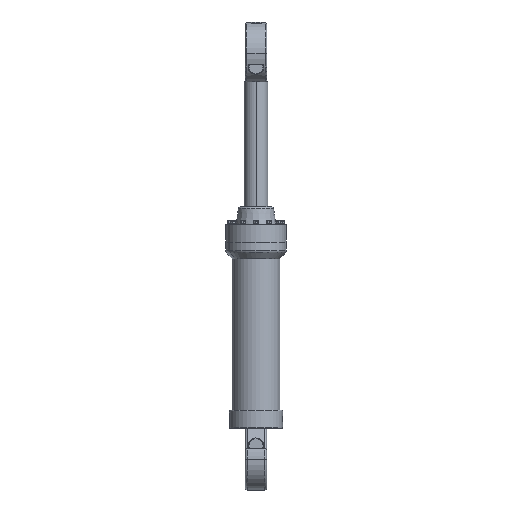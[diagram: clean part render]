
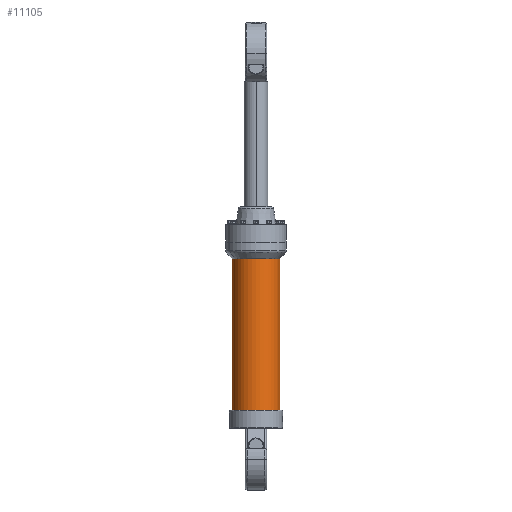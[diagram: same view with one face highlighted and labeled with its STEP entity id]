
A CAD part, front view. The second image highlights one B-rep face of the part: STEP entity #11105.
In plain terms, the highlighted cylindrical face has radius 57.15 mm (diameter 114.3 mm), a partial arc.
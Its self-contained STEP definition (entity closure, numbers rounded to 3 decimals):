
#431 = VERTEX_POINT ( 'NONE', #25546 ) ;
#1281 = VECTOR ( 'NONE', #14455, 1000. ) ;
#1566 = EDGE_CURVE ( 'NONE', #6004, #18419, #13920, .T. ) ;
#1853 = ORIENTED_EDGE ( 'NONE', *, *, #1566, .T. ) ;
#2064 = ORIENTED_EDGE ( 'NONE', *, *, #27237, .F. ) ;
#4842 = CARTESIAN_POINT ( 'NONE',  ( 0., 0., 362.5 ) ) ;
#5147 = CARTESIAN_POINT ( 'NONE',  ( 57.15, 0., 0. ) ) ;
#6004 = VERTEX_POINT ( 'NONE', #15127 ) ;
#6967 = FACE_OUTER_BOUND ( 'NONE', #21840, .T. ) ;
#7486 = EDGE_CURVE ( 'NONE', #431, #6004, #14069, .T. ) ;
#7672 = CARTESIAN_POINT ( 'NONE',  ( -57.15, 0., 362.5 ) ) ;
#7721 = CARTESIAN_POINT ( 'NONE',  ( 57.15, 0., 362.5 ) ) ;
#10447 = CARTESIAN_POINT ( 'NONE',  ( 57.15, 0., 362.5 ) ) ;
#10511 = CARTESIAN_POINT ( 'NONE',  ( 0., 0., 0. ) ) ;
#11105 = ADVANCED_FACE ( 'NONE', ( #6967 ), #15634, .T. ) ;
#11610 = AXIS2_PLACEMENT_3D ( 'NONE', #4842, #24600, #13504 ) ;
#11998 = CIRCLE ( 'NONE', #24698, 57.15 ) ;
#12073 = DIRECTION ( 'NONE',  ( 0., 0., -1. ) ) ;
#13038 = EDGE_CURVE ( 'NONE', #431, #22944, #11998, .T. ) ;
#13087 = ORIENTED_EDGE ( 'NONE', *, *, #13038, .F. ) ;
#13299 = DIRECTION ( 'NONE',  ( 1., 0., 0. ) ) ;
#13504 = DIRECTION ( 'NONE',  ( -1., 0., 0. ) ) ;
#13920 = CIRCLE ( 'NONE', #20709, 57.15 ) ;
#13990 = DIRECTION ( 'NONE',  ( 1., 0., 0. ) ) ;
#14069 = LINE ( 'NONE', #7672, #27573 ) ;
#14455 = DIRECTION ( 'NONE',  ( 0., 0., -1. ) ) ;
#15127 = CARTESIAN_POINT ( 'NONE',  ( -57.15, 0., 0. ) ) ;
#15634 = CYLINDRICAL_SURFACE ( 'NONE', #11610, 57.15 ) ;
#17039 = DIRECTION ( 'NONE',  ( 0., 0., 1. ) ) ;
#18419 = VERTEX_POINT ( 'NONE', #5147 ) ;
#20233 = DIRECTION ( 'NONE',  ( 0., 0., 1. ) ) ;
#20709 = AXIS2_PLACEMENT_3D ( 'NONE', #10511, #17039, #13299 ) ;
#21840 = EDGE_LOOP ( 'NONE', ( #2064, #13087, #23861, #1853 ) ) ;
#22808 = CARTESIAN_POINT ( 'NONE',  ( 0., 0., 362.5 ) ) ;
#22944 = VERTEX_POINT ( 'NONE', #7721 ) ;
#23861 = ORIENTED_EDGE ( 'NONE', *, *, #7486, .T. ) ;
#24600 = DIRECTION ( 'NONE',  ( 0., 0., -1. ) ) ;
#24698 = AXIS2_PLACEMENT_3D ( 'NONE', #22808, #20233, #13990 ) ;
#25406 = LINE ( 'NONE', #10447, #1281 ) ;
#25546 = CARTESIAN_POINT ( 'NONE',  ( -57.15, 0., 362.5 ) ) ;
#27237 = EDGE_CURVE ( 'NONE', #22944, #18419, #25406, .T. ) ;
#27573 = VECTOR ( 'NONE', #12073, 1000. ) ;
